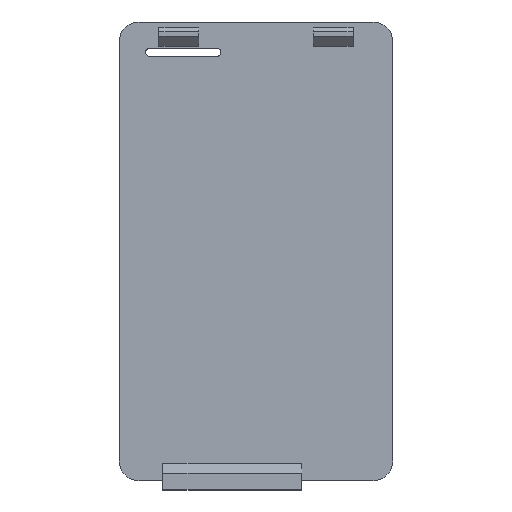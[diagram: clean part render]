
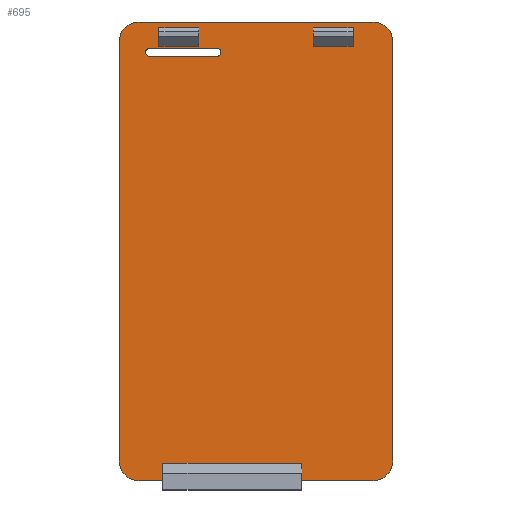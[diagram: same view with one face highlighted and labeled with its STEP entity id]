
A CAD part, top view. The second image highlights one B-rep face of the part: STEP entity #695.
In plain terms, the highlighted planar face has unit normal (0, 0, 1).
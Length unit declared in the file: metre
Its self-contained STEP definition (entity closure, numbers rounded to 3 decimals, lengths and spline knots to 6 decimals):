
#20=CIRCLE('',#748,0.005);
#21=CIRCLE('',#749,0.005);
#22=CIRCLE('',#750,0.005);
#23=CIRCLE('',#751,0.005);
#24=CIRCLE('',#752,0.001);
#25=CIRCLE('',#753,0.001);
#49=ORIENTED_EDGE('',*,*,#248,.F.);
#50=ORIENTED_EDGE('',*,*,#244,.T.);
#51=ORIENTED_EDGE('',*,*,#249,.T.);
#52=ORIENTED_EDGE('',*,*,#237,.T.);
#53=ORIENTED_EDGE('',*,*,#250,.T.);
#54=ORIENTED_EDGE('',*,*,#251,.T.);
#55=ORIENTED_EDGE('',*,*,#252,.T.);
#56=ORIENTED_EDGE('',*,*,#253,.F.);
#57=ORIENTED_EDGE('',*,*,#254,.T.);
#58=ORIENTED_EDGE('',*,*,#255,.F.);
#59=ORIENTED_EDGE('',*,*,#256,.F.);
#60=ORIENTED_EDGE('',*,*,#257,.T.);
#61=ORIENTED_EDGE('',*,*,#258,.T.);
#62=ORIENTED_EDGE('',*,*,#259,.T.);
#63=ORIENTED_EDGE('',*,*,#260,.T.);
#64=ORIENTED_EDGE('',*,*,#261,.T.);
#65=ORIENTED_EDGE('',*,*,#262,.T.);
#66=ORIENTED_EDGE('',*,*,#263,.T.);
#67=ORIENTED_EDGE('',*,*,#264,.T.);
#68=ORIENTED_EDGE('',*,*,#265,.T.);
#69=ORIENTED_EDGE('',*,*,#266,.T.);
#70=ORIENTED_EDGE('',*,*,#267,.T.);
#71=ORIENTED_EDGE('',*,*,#268,.T.);
#72=ORIENTED_EDGE('',*,*,#269,.T.);
#237=EDGE_CURVE('',#338,#336,#404,.T.);
#244=EDGE_CURVE('',#343,#344,#411,.T.);
#248=EDGE_CURVE('',#343,#336,#415,.T.);
#249=EDGE_CURVE('',#344,#338,#416,.T.);
#250=EDGE_CURVE('',#347,#348,#417,.T.);
#251=EDGE_CURVE('',#348,#349,#418,.T.);
#252=EDGE_CURVE('',#349,#350,#419,.T.);
#253=EDGE_CURVE('',#347,#350,#420,.T.);
#254=EDGE_CURVE('',#351,#352,#421,.T.);
#255=EDGE_CURVE('',#353,#352,#422,.T.);
#256=EDGE_CURVE('',#354,#353,#423,.T.);
#257=EDGE_CURVE('',#354,#351,#424,.T.);
#258=EDGE_CURVE('',#355,#356,#425,.T.);
#259=EDGE_CURVE('',#356,#357,#20,.F.);
#260=EDGE_CURVE('',#357,#358,#426,.T.);
#261=EDGE_CURVE('',#358,#359,#21,.F.);
#262=EDGE_CURVE('',#359,#360,#427,.T.);
#263=EDGE_CURVE('',#360,#361,#22,.F.);
#264=EDGE_CURVE('',#361,#362,#428,.T.);
#265=EDGE_CURVE('',#362,#355,#23,.F.);
#266=EDGE_CURVE('',#363,#364,#24,.T.);
#267=EDGE_CURVE('',#364,#365,#429,.T.);
#268=EDGE_CURVE('',#365,#366,#25,.T.);
#269=EDGE_CURVE('',#366,#363,#430,.T.);
#336=VERTEX_POINT('',#998);
#338=VERTEX_POINT('',#1001);
#343=VERTEX_POINT('',#1015);
#344=VERTEX_POINT('',#1016);
#347=VERTEX_POINT('',#1026);
#348=VERTEX_POINT('',#1027);
#349=VERTEX_POINT('',#1029);
#350=VERTEX_POINT('',#1031);
#351=VERTEX_POINT('',#1034);
#352=VERTEX_POINT('',#1035);
#353=VERTEX_POINT('',#1037);
#354=VERTEX_POINT('',#1039);
#355=VERTEX_POINT('',#1042);
#356=VERTEX_POINT('',#1043);
#357=VERTEX_POINT('',#1045);
#358=VERTEX_POINT('',#1047);
#359=VERTEX_POINT('',#1049);
#360=VERTEX_POINT('',#1051);
#361=VERTEX_POINT('',#1053);
#362=VERTEX_POINT('',#1055);
#363=VERTEX_POINT('',#1058);
#364=VERTEX_POINT('',#1059);
#365=VERTEX_POINT('',#1061);
#366=VERTEX_POINT('',#1063);
#404=LINE('',#1000,#488);
#411=LINE('',#1014,#495);
#415=LINE('',#1023,#499);
#416=LINE('',#1024,#500);
#417=LINE('',#1025,#501);
#418=LINE('',#1028,#502);
#419=LINE('',#1030,#503);
#420=LINE('',#1032,#504);
#421=LINE('',#1033,#505);
#422=LINE('',#1036,#506);
#423=LINE('',#1038,#507);
#424=LINE('',#1040,#508);
#425=LINE('',#1041,#509);
#426=LINE('',#1046,#510);
#427=LINE('',#1050,#511);
#428=LINE('',#1054,#512);
#429=LINE('',#1060,#513);
#430=LINE('',#1064,#514);
#488=VECTOR('',#804,1.);
#495=VECTOR('',#815,1.);
#499=VECTOR('',#821,1.);
#500=VECTOR('',#822,1.);
#501=VECTOR('',#823,1.);
#502=VECTOR('',#824,1.);
#503=VECTOR('',#825,1.);
#504=VECTOR('',#826,1.);
#505=VECTOR('',#827,1.);
#506=VECTOR('',#828,1.);
#507=VECTOR('',#829,1.);
#508=VECTOR('',#830,1.);
#509=VECTOR('',#831,1.);
#510=VECTOR('',#834,1.);
#511=VECTOR('',#837,1.);
#512=VECTOR('',#840,1.);
#513=VECTOR('',#845,1.);
#514=VECTOR('',#848,1.);
#574=EDGE_LOOP('',(#49,#50,#51,#52));
#575=EDGE_LOOP('',(#53,#54,#55,#56));
#576=EDGE_LOOP('',(#57,#58,#59,#60));
#577=EDGE_LOOP('',(#61,#62,#63,#64,#65,#66,#67,#68));
#578=EDGE_LOOP('',(#69,#70,#71,#72));
#619=FACE_BOUND('',#574,.T.);
#620=FACE_BOUND('',#575,.T.);
#621=FACE_BOUND('',#576,.T.);
#622=FACE_BOUND('',#577,.T.);
#623=FACE_BOUND('',#578,.T.);
#664=PLANE('',#747);
#695=ADVANCED_FACE('',(#619,#620,#621,#622,#623),#664,.F.);
#747=AXIS2_PLACEMENT_3D('',#1022,#819,#820);
#748=AXIS2_PLACEMENT_3D('',#1044,#832,#833);
#749=AXIS2_PLACEMENT_3D('',#1048,#835,#836);
#750=AXIS2_PLACEMENT_3D('',#1052,#838,#839);
#751=AXIS2_PLACEMENT_3D('',#1056,#841,#842);
#752=AXIS2_PLACEMENT_3D('',#1057,#843,#844);
#753=AXIS2_PLACEMENT_3D('',#1062,#846,#847);
#804=DIRECTION('',(1.,0.,0.));
#815=DIRECTION('',(-1.,0.,0.));
#819=DIRECTION('',(0.,0.,-1.));
#820=DIRECTION('',(1.,0.,0.));
#821=DIRECTION('',(0.,1.,0.));
#822=DIRECTION('',(0.,1.,0.));
#823=DIRECTION('',(-1.,0.,0.));
#824=DIRECTION('',(0.,1.,0.));
#825=DIRECTION('',(1.,0.,0.));
#826=DIRECTION('',(0.,1.,0.));
#827=DIRECTION('',(0.,1.,0.));
#828=DIRECTION('',(-1.,0.,0.));
#829=DIRECTION('',(0.,1.,0.));
#830=DIRECTION('',(-1.,0.,0.));
#831=DIRECTION('',(1.,0.,0.));
#832=DIRECTION('',(0.,0.,-1.));
#833=DIRECTION('',(-1.,0.,0.));
#834=DIRECTION('',(0.,1.,0.));
#835=DIRECTION('',(0.,0.,-1.));
#836=DIRECTION('',(-1.,0.,0.));
#837=DIRECTION('',(-1.,0.,0.));
#838=DIRECTION('',(0.,0.,-1.));
#839=DIRECTION('',(-1.,0.,0.));
#840=DIRECTION('',(0.,-1.,0.));
#841=DIRECTION('',(0.,0.,-1.));
#842=DIRECTION('',(-1.,0.,0.));
#843=DIRECTION('',(0.,0.,-1.));
#844=DIRECTION('',(-1.,0.,0.));
#845=DIRECTION('',(1.,0.,0.));
#846=DIRECTION('',(0.,0.,-1.));
#847=DIRECTION('',(-1.,0.,0.));
#848=DIRECTION('',(-1.,0.,0.));
#998=CARTESIAN_POINT('',(-0.1815,-0.06475,-0.01875));
#1000=CARTESIAN_POINT('',(-0.1695,-0.06475,-0.01875));
#1001=CARTESIAN_POINT('',(-0.2165,-0.06475,-0.01875));
#1014=CARTESIAN_POINT('',(-0.1915,-0.06895,-0.01875));
#1015=CARTESIAN_POINT('',(-0.1815,-0.06895,-0.01875));
#1016=CARTESIAN_POINT('',(-0.2165,-0.06895,-0.01875));
#1022=CARTESIAN_POINT('',(-0.1915,-0.011225,-0.01875));
#1023=CARTESIAN_POINT('',(-0.1815,-0.06795,-0.01875));
#1024=CARTESIAN_POINT('',(-0.2165,-0.06795,-0.01875));
#1025=CARTESIAN_POINT('',(-0.2175,0.0405,-0.01875));
#1026=CARTESIAN_POINT('',(-0.2075,0.0405,-0.01875));
#1027=CARTESIAN_POINT('',(-0.2175,0.0405,-0.01875));
#1028=CARTESIAN_POINT('',(-0.2175,0.044,-0.01875));
#1029=CARTESIAN_POINT('',(-0.2175,0.04515,-0.01875));
#1030=CARTESIAN_POINT('',(-0.2125,0.04515,-0.01875));
#1031=CARTESIAN_POINT('',(-0.2075,0.04515,-0.01875));
#1032=CARTESIAN_POINT('',(-0.2075,0.044,-0.01875));
#1033=CARTESIAN_POINT('',(-0.1785,0.044,-0.01875));
#1034=CARTESIAN_POINT('',(-0.1785,0.0405,-0.01875));
#1035=CARTESIAN_POINT('',(-0.1785,0.04515,-0.01875));
#1036=CARTESIAN_POINT('',(-0.1735,0.04515,-0.01875));
#1037=CARTESIAN_POINT('',(-0.1685,0.04515,-0.01875));
#1038=CARTESIAN_POINT('',(-0.1685,0.044,-0.01875));
#1039=CARTESIAN_POINT('',(-0.1685,0.0405,-0.01875));
#1040=CARTESIAN_POINT('',(-0.1915,0.0405,-0.01875));
#1041=CARTESIAN_POINT('',(-0.193,-0.0691,-0.01875));
#1042=CARTESIAN_POINT('',(-0.2225,-0.0691,-0.01875));
#1043=CARTESIAN_POINT('',(-0.1635,-0.0691,-0.01875));
#1044=CARTESIAN_POINT('',(-0.1635,-0.0641,-0.01875));
#1045=CARTESIAN_POINT('',(-0.1585,-0.0641,-0.01875));
#1046=CARTESIAN_POINT('',(-0.1585,-0.011225,-0.01875));
#1047=CARTESIAN_POINT('',(-0.1585,0.04165,-0.01875));
#1048=CARTESIAN_POINT('',(-0.1635,0.04165,-0.01875));
#1049=CARTESIAN_POINT('',(-0.1635,0.04665,-0.01875));
#1050=CARTESIAN_POINT('',(-0.2075,0.04665,-0.01875));
#1051=CARTESIAN_POINT('',(-0.2225,0.04665,-0.01875));
#1052=CARTESIAN_POINT('',(-0.2225,0.04165,-0.01875));
#1053=CARTESIAN_POINT('',(-0.2275,0.04165,-0.01875));
#1054=CARTESIAN_POINT('',(-0.2275,-0.011225,-0.01875));
#1055=CARTESIAN_POINT('',(-0.2275,-0.0641,-0.01875));
#1056=CARTESIAN_POINT('',(-0.2225,-0.0641,-0.01875));
#1057=CARTESIAN_POINT('',(-0.21985,0.039,-0.01875));
#1058=CARTESIAN_POINT('',(-0.21985,0.038,-0.01875));
#1059=CARTESIAN_POINT('',(-0.21985,0.04,-0.01875));
#1060=CARTESIAN_POINT('',(-0.21135,0.04,-0.01875));
#1061=CARTESIAN_POINT('',(-0.20285,0.04,-0.01875));
#1062=CARTESIAN_POINT('',(-0.20285,0.039,-0.01875));
#1063=CARTESIAN_POINT('',(-0.20285,0.038,-0.01875));
#1064=CARTESIAN_POINT('',(-0.21135,0.038,-0.01875));
